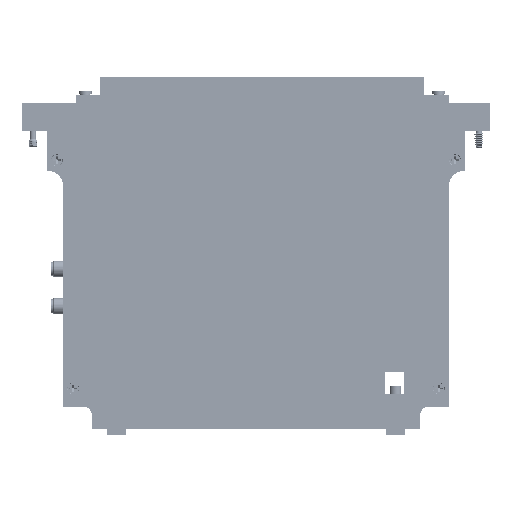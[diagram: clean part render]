
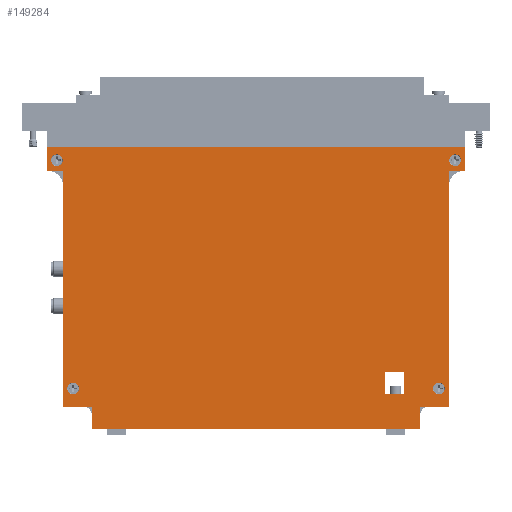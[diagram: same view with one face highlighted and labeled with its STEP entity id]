
A CAD part, left-side view. The second image highlights one B-rep face of the part: STEP entity #149284.
In plain terms, the highlighted planar face has unit normal (-1, 0, 0).
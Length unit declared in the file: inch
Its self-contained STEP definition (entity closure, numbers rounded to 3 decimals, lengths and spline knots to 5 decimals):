
#148572=CARTESIAN_POINT('',(0.,0.7875,-4.494));
#148573=VERTEX_POINT('',#148572);
#148574=CARTESIAN_POINT('',(0.,0.7875,-4.404));
#148575=DIRECTION('',(1.0,0.0,0.0));
#148576=DIRECTION('',(0.0,0.0,-1.0));
#148577=AXIS2_PLACEMENT_3D('',#148574,#148575,#148576);
#148578=CIRCLE('',#148577,0.09);
#148579=EDGE_CURVE('',#148573,#148573,#148578,.T.);
#148620=CARTESIAN_POINT('',(0.,6.4275,-4.494));
#148621=VERTEX_POINT('',#148620);
#148622=CARTESIAN_POINT('',(0.,6.4275,-4.404));
#148623=DIRECTION('',(1.0,0.0,0.0));
#148624=DIRECTION('',(0.0,0.0,-1.0));
#148625=AXIS2_PLACEMENT_3D('',#148622,#148623,#148624);
#148626=CIRCLE('',#148625,0.09);
#148627=EDGE_CURVE('',#148621,#148621,#148626,.T.);
#148668=CARTESIAN_POINT('',(0.,6.6775,-0.975));
#148669=VERTEX_POINT('',#148668);
#148670=CARTESIAN_POINT('',(0.,6.6775,-0.885));
#148671=DIRECTION('',(1.0,0.0,0.0));
#148672=DIRECTION('',(0.0,0.0,-1.0));
#148673=AXIS2_PLACEMENT_3D('',#148670,#148671,#148672);
#148674=CIRCLE('',#148673,0.09);
#148675=EDGE_CURVE('',#148669,#148669,#148674,.T.);
#148716=CARTESIAN_POINT('',(0.,0.5375,-0.975));
#148717=VERTEX_POINT('',#148716);
#148718=CARTESIAN_POINT('',(0.,0.5375,-0.885));
#148719=DIRECTION('',(1.0,0.0,0.0));
#148720=DIRECTION('',(0.0,0.0,-1.0));
#148721=AXIS2_PLACEMENT_3D('',#148718,#148719,#148720);
#148722=CIRCLE('',#148721,0.09);
#148723=EDGE_CURVE('',#148717,#148717,#148722,.T.);
#148774=CARTESIAN_POINT('',(0.,6.1405,-5.023));
#148775=VERTEX_POINT('',#148774);
#148782=CARTESIAN_POINT('',(0.,6.1405,-4.685));
#148783=VERTEX_POINT('',#148782);
#148784=CARTESIAN_POINT('',(0.,6.1405,-4.685));
#148785=DIRECTION('',(0.0,0.0,-1.0));
#148786=VECTOR('',#148785,0.338);
#148787=LINE('',#148784,#148786);
#148788=EDGE_CURVE('',#148783,#148775,#148787,.T.);
#148813=CARTESIAN_POINT('',(0.,6.5775,-4.685));
#148814=VERTEX_POINT('',#148813);
#148815=CARTESIAN_POINT('',(0.,6.5775,-4.685));
#148816=DIRECTION('',(0.0,-1.0,0.0));
#148817=VECTOR('',#148816,0.437);
#148818=LINE('',#148815,#148817);
#148819=EDGE_CURVE('',#148814,#148783,#148818,.T.);
#148845=CARTESIAN_POINT('',(0.,1.0745,-4.685));
#148846=VERTEX_POINT('',#148845);
#148853=CARTESIAN_POINT('',(0.,1.0745,-5.023));
#148854=VERTEX_POINT('',#148853);
#148855=CARTESIAN_POINT('',(0.,1.0745,-5.023));
#148856=DIRECTION('',(0.0,0.0,1.0));
#148857=VECTOR('',#148856,0.338);
#148858=LINE('',#148855,#148857);
#148859=EDGE_CURVE('',#148854,#148846,#148858,.T.);
#148883=CARTESIAN_POINT('',(0.,0.6375,-4.685));
#148884=VERTEX_POINT('',#148883);
#148891=CARTESIAN_POINT('',(0.,1.0745,-4.685));
#148892=DIRECTION('',(0.0,-1.0,0.0));
#148893=VECTOR('',#148892,0.437);
#148894=LINE('',#148891,#148893);
#148895=EDGE_CURVE('',#148846,#148884,#148894,.T.);
#148916=CARTESIAN_POINT('',(0.,1.3245,-4.145));
#148917=VERTEX_POINT('',#148916);
#148924=CARTESIAN_POINT('',(0.,1.6245,-4.145));
#148925=VERTEX_POINT('',#148924);
#148926=CARTESIAN_POINT('',(0.,1.6245,-4.145));
#148927=DIRECTION('',(0.0,-1.0,0.0));
#148928=VECTOR('',#148927,0.3);
#148929=LINE('',#148926,#148928);
#148930=EDGE_CURVE('',#148925,#148917,#148929,.T.);
#148955=CARTESIAN_POINT('',(0.,1.6245,-4.485));
#148956=VERTEX_POINT('',#148955);
#148957=CARTESIAN_POINT('',(0.,1.6245,-4.485));
#148958=DIRECTION('',(0.0,0.0,1.0));
#148959=VECTOR('',#148958,0.34);
#148960=LINE('',#148957,#148959);
#148961=EDGE_CURVE('',#148956,#148925,#148960,.T.);
#148986=CARTESIAN_POINT('',(0.,1.3245,-4.485));
#148987=VERTEX_POINT('',#148986);
#148988=CARTESIAN_POINT('',(0.,1.3245,-4.485));
#148989=DIRECTION('',(0.0,1.0,0.0));
#148990=VECTOR('',#148989,0.3);
#148991=LINE('',#148988,#148990);
#148992=EDGE_CURVE('',#148987,#148956,#148991,.T.);
#149015=CARTESIAN_POINT('',(0.,1.3245,-4.145));
#149016=DIRECTION('',(0.0,0.0,-1.0));
#149017=VECTOR('',#149016,0.34);
#149018=LINE('',#149015,#149017);
#149019=EDGE_CURVE('',#148917,#148987,#149018,.T.);
#149038=CARTESIAN_POINT('',(0.,1.0745,-5.023));
#149039=DIRECTION('',(0.0,1.0,0.0));
#149040=VECTOR('',#149039,5.066);
#149041=LINE('',#149038,#149040);
#149042=EDGE_CURVE('',#148854,#148775,#149041,.T.);
#149139=CARTESIAN_POINT('',(0.,0.6375,-1.045));
#149140=VERTEX_POINT('',#149139);
#149147=CARTESIAN_POINT('',(0.,0.6375,-4.685));
#149148=DIRECTION('',(0.0,0.0,1.0));
#149149=VECTOR('',#149148,3.64);
#149150=LINE('',#149147,#149149);
#149151=EDGE_CURVE('',#148884,#149140,#149150,.T.);
#149162=CARTESIAN_POINT('',(0.,0.3875,-1.045));
#149163=VERTEX_POINT('',#149162);
#149170=CARTESIAN_POINT('',(0.,0.6375,-1.045));
#149171=DIRECTION('',(0.0,-1.0,0.0));
#149172=VECTOR('',#149171,0.25);
#149173=LINE('',#149170,#149172);
#149174=EDGE_CURVE('',#149140,#149163,#149173,.T.);
#149186=CARTESIAN_POINT('',(0.,6.5775,-1.045));
#149187=VERTEX_POINT('',#149186);
#149194=CARTESIAN_POINT('',(0.,6.8275,-1.045));
#149195=VERTEX_POINT('',#149194);
#149196=CARTESIAN_POINT('',(0.,6.8275,-1.045));
#149197=DIRECTION('',(0.0,-1.0,0.0));
#149198=VECTOR('',#149197,0.25);
#149199=LINE('',#149196,#149198);
#149200=EDGE_CURVE('',#149195,#149187,#149199,.T.);
#149217=CARTESIAN_POINT('',(0.,6.5775,-1.045));
#149218=DIRECTION('',(0.0,0.0,-1.0));
#149219=VECTOR('',#149218,3.64);
#149220=LINE('',#149217,#149219);
#149221=EDGE_CURVE('',#149187,#148814,#149220,.T.);
#149228=CARTESIAN_POINT('',(0.,3.6075,-2.854));
#149229=DIRECTION('',(-1.0,0.0,0.0));
#149230=DIRECTION('',(0.0,0.0,-1.0));
#149231=AXIS2_PLACEMENT_3D('',#149228,#149229,#149230);
#149232=PLANE('',#149231);
#149233=ORIENTED_EDGE('',*,*,#148788,.T.);
#149234=ORIENTED_EDGE('',*,*,#149042,.F.);
#149235=ORIENTED_EDGE('',*,*,#148859,.T.);
#149236=ORIENTED_EDGE('',*,*,#148895,.T.);
#149237=ORIENTED_EDGE('',*,*,#149151,.T.);
#149238=ORIENTED_EDGE('',*,*,#149174,.T.);
#149239=CARTESIAN_POINT('',(0.,0.3875,-0.685));
#149240=VERTEX_POINT('',#149239);
#149241=CARTESIAN_POINT('',(0.,0.3875,-0.685));
#149242=DIRECTION('',(0.0,0.0,-1.0));
#149243=VECTOR('',#149242,0.36);
#149244=LINE('',#149241,#149243);
#149245=EDGE_CURVE('',#149240,#149163,#149244,.T.);
#149246=ORIENTED_EDGE('',*,*,#149245,.F.);
#149247=CARTESIAN_POINT('',(0.,6.8275,-0.685));
#149248=VERTEX_POINT('',#149247);
#149249=CARTESIAN_POINT('',(0.,6.8275,-0.685));
#149250=DIRECTION('',(0.0,-1.0,0.0));
#149251=VECTOR('',#149250,6.44);
#149252=LINE('',#149249,#149251);
#149253=EDGE_CURVE('',#149248,#149240,#149252,.T.);
#149254=ORIENTED_EDGE('',*,*,#149253,.F.);
#149255=CARTESIAN_POINT('',(0.,6.8275,-1.045));
#149256=DIRECTION('',(0.0,0.0,1.0));
#149257=VECTOR('',#149256,0.36);
#149258=LINE('',#149255,#149257);
#149259=EDGE_CURVE('',#149195,#149248,#149258,.T.);
#149260=ORIENTED_EDGE('',*,*,#149259,.F.);
#149261=ORIENTED_EDGE('',*,*,#149200,.T.);
#149262=ORIENTED_EDGE('',*,*,#149221,.T.);
#149263=ORIENTED_EDGE('',*,*,#148819,.T.);
#149264=EDGE_LOOP('',(#149233,#149234,#149235,#149236,#149237,#149238,#149246,#149254,#149260,#149261,#149262,#149263));
#149265=FACE_OUTER_BOUND('',#149264,.T.);
#149266=ORIENTED_EDGE('',*,*,#148579,.T.);
#149267=EDGE_LOOP('',(#149266));
#149268=FACE_BOUND('',#149267,.T.);
#149269=ORIENTED_EDGE('',*,*,#148627,.T.);
#149270=EDGE_LOOP('',(#149269));
#149271=FACE_BOUND('',#149270,.T.);
#149272=ORIENTED_EDGE('',*,*,#148675,.T.);
#149273=EDGE_LOOP('',(#149272));
#149274=FACE_BOUND('',#149273,.T.);
#149275=ORIENTED_EDGE('',*,*,#148723,.T.);
#149276=EDGE_LOOP('',(#149275));
#149277=FACE_BOUND('',#149276,.T.);
#149278=ORIENTED_EDGE('',*,*,#148992,.T.);
#149279=ORIENTED_EDGE('',*,*,#148961,.T.);
#149280=ORIENTED_EDGE('',*,*,#148930,.T.);
#149281=ORIENTED_EDGE('',*,*,#149019,.T.);
#149282=EDGE_LOOP('',(#149278,#149279,#149280,#149281));
#149283=FACE_BOUND('',#149282,.T.);
#149284=ADVANCED_FACE('',(#149265,#149268,#149271,#149274,#149277,#149283),#149232,.T.);
